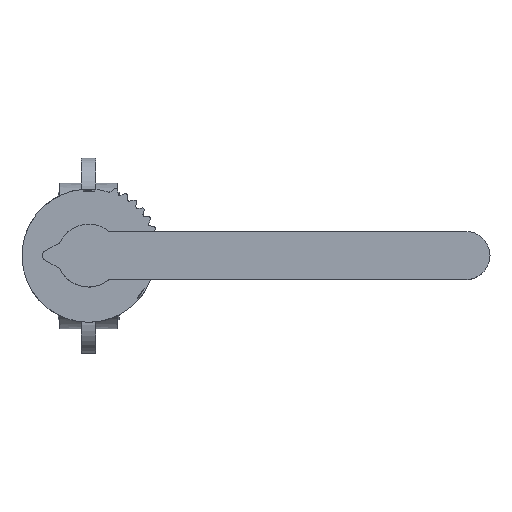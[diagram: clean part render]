
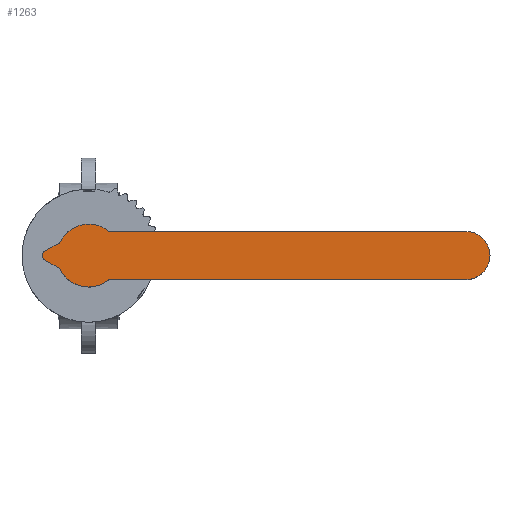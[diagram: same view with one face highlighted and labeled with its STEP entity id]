
A CAD part, top view. The second image highlights one B-rep face of the part: STEP entity #1263.
In plain terms, the highlighted planar face has unit normal (0, 0, 1).
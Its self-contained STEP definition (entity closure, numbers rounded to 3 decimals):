
#1263=ADVANCED_FACE('',(#2756),#2758,.T.);
#2756=FACE_BOUND('',#2757,.T.);
#2757=EDGE_LOOP('',(#3829,#3830,#3831,#3832,#3833,#3834,#3835,#3836,#3837,#3838,
#3839));
#2758=PLANE('',#2759);
#2759=AXIS2_PLACEMENT_3D('',#2760,#2761,#2762);
#2760=CARTESIAN_POINT('',(-1.545,-4.755,135.));
#2761=DIRECTION('',(0.,0.,1.));
#2762=DIRECTION('',(0.951,-0.309,0.));
#3829=ORIENTED_EDGE('',*,*,#4457,.T.);
#3830=ORIENTED_EDGE('',*,*,#4436,.T.);
#3831=ORIENTED_EDGE('',*,*,#4435,.T.);
#3832=ORIENTED_EDGE('',*,*,#4458,.T.);
#3833=ORIENTED_EDGE('',*,*,#4459,.T.);
#3834=ORIENTED_EDGE('',*,*,#4460,.T.);
#3835=ORIENTED_EDGE('',*,*,#4461,.T.);
#3836=ORIENTED_EDGE('',*,*,#4462,.T.);
#3837=ORIENTED_EDGE('',*,*,#4431,.T.);
#3838=ORIENTED_EDGE('',*,*,#4443,.T.);
#3839=ORIENTED_EDGE('',*,*,#4463,.T.);
#4431=EDGE_CURVE('',#5147,#5145,#5148,.T.);
#4435=EDGE_CURVE('',#5155,#5153,#5156,.T.);
#4436=EDGE_CURVE('',#5157,#5155,#5158,.T.);
#4443=EDGE_CURVE('',#5145,#5169,#5170,.T.);
#4457=EDGE_CURVE('',#5196,#5157,#5197,.T.);
#4458=EDGE_CURVE('',#5153,#5198,#5199,.T.);
#4459=EDGE_CURVE('',#5198,#5200,#5201,.T.);
#4460=EDGE_CURVE('',#5200,#5202,#5203,.T.);
#4461=EDGE_CURVE('',#5202,#5204,#5205,.T.);
#4462=EDGE_CURVE('',#5204,#5147,#5206,.T.);
#4463=EDGE_CURVE('',#5169,#5196,#5207,.T.);
#5145=VERTEX_POINT('',#7734);
#5147=VERTEX_POINT('',#7738);
#5148=CIRCLE('',#7739,17.);
#5153=VERTEX_POINT('',#7752);
#5155=VERTEX_POINT('',#7756);
#5156=CIRCLE('',#7757,17.);
#5157=VERTEX_POINT('',#7761);
#5158=CIRCLE('',#7762,17.);
#5169=VERTEX_POINT('',#7791);
#5170=LINE('',#7792,#7793);
#5196=VERTEX_POINT('',#7846);
#5197=LINE('',#7847,#7848);
#5198=VERTEX_POINT('',#7850);
#5199=CIRCLE('',#7851,3.);
#5200=VERTEX_POINT('',#7855);
#5201=LINE('',#7856,#7857);
#5202=VERTEX_POINT('',#7859);
#5203=CIRCLE('',#7860,3.);
#5204=VERTEX_POINT('',#7864);
#5205=LINE('',#7865,#7866);
#5206=CIRCLE('',#7868,3.);
#5207=CIRCLE('',#7872,13.);
#7734=CARTESIAN_POINT('',(10.954,-13.,135.));
#7738=CARTESIAN_POINT('',(-15.113,-7.785,135.));
#7739=AXIS2_PLACEMENT_3D('',#7740,#7741,#7742);
#7740=CARTESIAN_POINT('',(0.,0.,135.));
#7741=DIRECTION('',(0.,0.,1.));
#7742=DIRECTION('',(-0.889,-0.458,0.));
#7752=CARTESIAN_POINT('',(-15.113,7.785,135.));
#7756=CARTESIAN_POINT('',(2.659,16.791,135.));
#7757=AXIS2_PLACEMENT_3D('',#7758,#7759,#7760);
#7758=CARTESIAN_POINT('',(0.,0.,135.));
#7759=DIRECTION('',(0.,0.,1.));
#7760=DIRECTION('',(0.156,0.988,0.));
#7761=CARTESIAN_POINT('',(10.954,13.,135.));
#7762=AXIS2_PLACEMENT_3D('',#7763,#7764,#7765);
#7763=CARTESIAN_POINT('',(0.,0.,135.));
#7764=DIRECTION('',(0.,0.,1.));
#7765=DIRECTION('',(0.644,0.765,0.));
#7791=CARTESIAN_POINT('',(204.,-13.,135.));
#7792=CARTESIAN_POINT('',(10.954,-13.,135.));
#7793=VECTOR('',#7794,1.);
#7794=DIRECTION('',(1.,0.,0.));
#7846=CARTESIAN_POINT('',(204.,13.,135.));
#7847=CARTESIAN_POINT('',(204.,13.,135.));
#7848=VECTOR('',#7849,1.);
#7849=DIRECTION('',(-1.,0.,0.));
#7850=CARTESIAN_POINT('',(-16.317,6.539,135.));
#7851=AXIS2_PLACEMENT_3D('',#7852,#7853,#7854);
#7852=CARTESIAN_POINT('',(-17.78,9.159,135.));
#7853=DIRECTION('',(0.,0.,-1.));
#7854=DIRECTION('',(0.889,-0.458,0.));
#7855=CARTESIAN_POINT('',(-23.338,2.619,135.));
#7856=CARTESIAN_POINT('',(-16.317,6.539,135.));
#7857=VECTOR('',#7858,1.);
#7858=DIRECTION('',(-0.873,-0.487,0.));
#7859=CARTESIAN_POINT('',(-23.338,-2.619,135.));
#7860=AXIS2_PLACEMENT_3D('',#7861,#7862,#7863);
#7861=CARTESIAN_POINT('',(-21.876,0.,135.));
#7862=DIRECTION('',(0.,0.,1.));
#7863=DIRECTION('',(-0.487,0.873,0.));
#7864=CARTESIAN_POINT('',(-16.317,-6.539,135.));
#7865=CARTESIAN_POINT('',(-23.338,-2.619,135.));
#7866=VECTOR('',#7867,1.);
#7867=DIRECTION('',(0.873,-0.487,0.));
#7868=AXIS2_PLACEMENT_3D('',#7869,#7870,#7871);
#7869=CARTESIAN_POINT('',(-17.78,-9.159,135.));
#7870=DIRECTION('',(0.,0.,-1.));
#7871=DIRECTION('',(0.487,0.873,0.));
#7872=AXIS2_PLACEMENT_3D('',#7873,#7874,#7875);
#7873=CARTESIAN_POINT('',(204.,0.,135.));
#7874=DIRECTION('',(0.,0.,1.));
#7875=DIRECTION('',(0.,-1.,0.));
